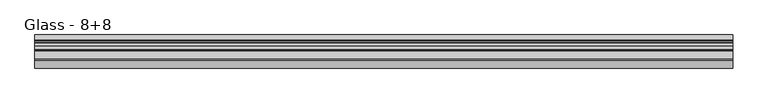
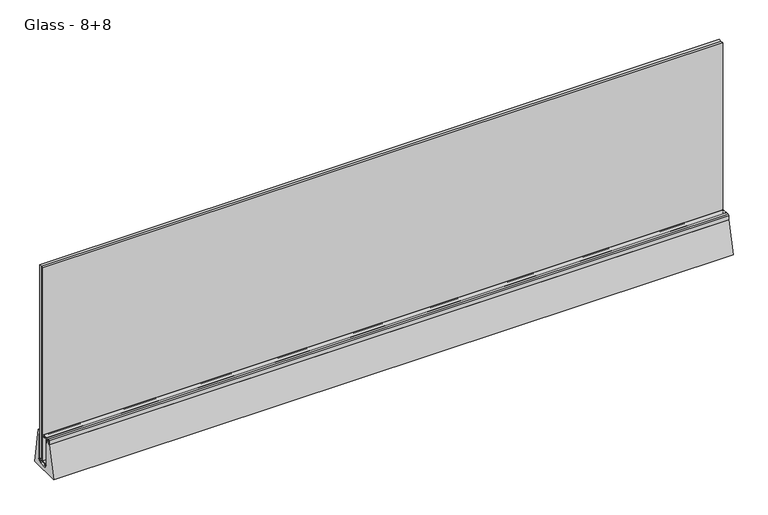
"""IFC4 building model written with IfcOpenShell, lengths in millimetres: proxy geometry, Construction_Slope-Glazing_Faraone_Linea-3-Mini : Glass - 8+8."""

from ifc_helpers import new_model, si_unit, point, frame, frame_2d, origin, place, context, project, spatial, polyline, circle_curve, trimmed, segment, composite_curve, outline, extrude, source, transform, mapped, element, save


def glass_8_8_5efa4668(model_context):
    return source(origin(), model_context, "Body", "SweptSolid", [
        extrude(outline(polyline([(1000.0, 23.8514845), (1000.0, 15.9014845), (-1000.0, 15.9014845), (-1000.0, 23.8514845), (1000.0, 23.8514845)])), frame((0.0, 0.0, 26.5097848), z_axis=(0.0, 0.0, 1.0), x_axis=(1.0, 0.0, 0.0)), (0.0, 0.0, 1.0), 600.0),
        extrude(outline(polyline([(1000.0, 14.3014845), (1000.0, 6.3514845), (-1000.0, 6.3514845), (-1000.0, 14.3014845), (1000.0, 14.3014845)])), frame((0.0, 0.0, 26.5097848), z_axis=(0.0, 0.0, 1.0), x_axis=(1.0, 0.0, 0.0)), (0.0, 0.0, 1.0), 600.0),
        extrude(outline(polyline([(21.0027951, 21.0097848), (22.0027951, 21.0097848), (21.0027951, 17.5097848), (18.5027951, 17.5097848), (18.5027951, 23.5097848), (-3.4544609, 23.5097848), (-3.4544609, 17.5097848), (-5.9544609, 17.5097848), (-6.9542334, 21.0097848), (-5.9544609, 21.0097848), (-5.9544609, 23.5100571), (-8.9999952, 23.5100571), (-8.9999952, 26.5097848), (23.8514845, 26.5097848), (23.8514845, 98.7598945), (26.4955126, 98.7598945), (26.4955126, 23.5097848), (21.0027951, 23.5097848), (21.0027951, 21.0097848)])), frame((-1000.0, 0.0, 0.0), z_axis=(1.0, 0.0, 0.0), x_axis=(0.0, 1.0, 0.0)), (0.0, 0.0, 1.0), 2000.0),
        extrude(outline(composite_curve([segment(trimmed(circle_curve(frame_2d((2.3741707, 109.8933639)), 0.5), [point((2.3741707, 110.3933639))], [point((2.8741707, 109.8933639))], False, "CARTESIAN"), True, "CONTINUOUS"), segment(polyline([(2.8741707, 109.8933639), (2.8741707, 107.7847909), (2.080513, 107.7847909), (2.080513, 109.0323883), (1.1824202, 109.0323883)]), True, "CONTINUOUS"), segment(trimmed(circle_curve(frame_2d((1.1824202, 108.5241255)), 0.5082627), [point((1.1824202, 109.0323883))], [point((0.6741575, 108.5241255))], True, "CARTESIAN"), True, "CONTINUOUS"), segment(polyline([(0.6741575, 108.5241255), (0.6741575, 104.040651)]), True, "CONTINUOUS"), segment(trimmed(circle_curve(frame_2d((1.1824202, 104.040651)), 0.5082627), [point((0.6741575, 104.040651))], [point((1.1824202, 103.5323883))], True, "CARTESIAN"), True, "CONTINUOUS"), segment(polyline([(1.1824202, 103.5323883), (2.080513, 103.5323883), (2.080513, 104.7799856), (2.8741707, 104.7799856), (2.8741707, 102.8323883)]), True, "CONTINUOUS"), segment(trimmed(circle_curve(frame_2d((2.3741707, 102.8323883)), 0.5), [point((2.8741707, 102.8323883))], [point((2.3741707, 102.3323883))], False, "CARTESIAN"), True, "CONTINUOUS"), segment(polyline([(2.3741707, 102.3323883), (-0.0258423, 102.3323883)]), True, "CONTINUOUS"), segment(trimmed(circle_curve(frame_2d((-0.0258423, 102.8323885)), 0.5000003), [point((-0.0258423, 102.3323883))], [point((-0.5258425, 102.8323885))], False, "CARTESIAN"), True, "CONTINUOUS"), segment(polyline([(-0.5258425, 102.8323885), (-0.5258425, 108.3933644)]), True, "CONTINUOUS"), segment(trimmed(circle_curve(frame_2d((-1.0258425, 108.3933644)), 0.5), [point((-0.5258425, 108.3933644))], [point((-1.0258425, 108.8933644))], True, "CARTESIAN"), True, "CONTINUOUS"), segment(polyline([(-1.0258425, 108.8933644), (-11.5017337, 108.8933644), (-11.5017337, 95.1380316), (-13.5888351, 95.1380316), (-13.5888351, 100.1818111), (-12.7017337, 100.1818111), (-12.7017337, 108.0933644)]), True, "CONTINUOUS"), segment(trimmed(circle_curve(frame_2d((-12.7017337, 108.4933644)), 0.4), [point((-12.7017337, 108.0933644))], [point((-12.7017337, 108.8933644))], True, "CARTESIAN"), True, "CONTINUOUS"), segment(polyline([(-12.7017337, 108.8933644), (-22.0267873, 108.8933644)]), True, "CONTINUOUS"), segment(trimmed(circle_curve(frame_2d((-22.0267873, 107.3933642)), 1.5000003), [point((-22.0267873, 108.8933644))], [point((-23.5267875, 107.3933642))], True, "CARTESIAN"), True, "CONTINUOUS"), segment(polyline([(-23.5267875, 107.3933642), (-23.5267875, 100.1818111), (-22.6462885, 100.1818111), (-22.6462885, 95.1374302), (-24.7267875, 95.1382255), (-24.7267875, 107.3933639)]), True, "CONTINUOUS"), segment(trimmed(circle_curve(frame_2d((-21.7267875, 107.3933639)), 3.0), [point((-24.7267875, 107.3933639))], [point((-21.7267875, 110.3933639))], False, "CARTESIAN"), True, "CONTINUOUS"), segment(polyline([(-21.7267875, 110.3933639), (2.3741707, 110.3933639)]), True, "CONTINUOUS")], self_intersect=False)), frame((-1000.0, 0.0, 0.0), z_axis=(1.0, 0.0, 0.0), x_axis=(0.0, 1.0, 0.0)), (0.0, 0.0, 1.0), 2000.0),
        extrude(outline(composite_curve([segment(polyline([(-47.4987038, 0.0), (-24.7300487, 95.1378278), (-22.4744479, 95.1378278), (-22.4744479, 103.0050058), (-13.7606757, 103.0050058), (-13.7606757, 95.1380316), (-11.4999492, 95.1380316), (-11.4999492, 23.5100853), (-6.5000411, 23.5100853), (-6.5000411, 21.5106384), (-11.5002842, 21.5106384), (-6.3392177, 10.5100582), (21.4008273, 10.5098183), (26.8963028, 21.5099451), (21.4999589, 21.5099451), (21.4999589, 23.5097848), (26.4996909, 23.5097848), (26.4947523, 109.9810078), (30.5938434, 109.9810078)]), True, "CONTINUOUS"), segment(trimmed(circle_curve(frame_2d((30.5938434, 109.0417285)), 0.9392792), [point((30.5938434, 109.9810078))], [point((31.5233799, 109.1766636))], False, "CARTESIAN"), True, "CONTINUOUS"), segment(polyline([(31.5233799, 109.1766636), (47.3718822, 0.0), (-47.4987038, 0.0)]), True, "CONTINUOUS")], self_intersect=False)), frame((-1000.0, 0.0, 0.0), z_axis=(1.0, 0.0, 0.0), x_axis=(0.0, 1.0, 0.0)), (0.0, 0.0, 1.0), 2000.0),
    ])


if __name__ == "__main__":
    model = new_model("IFC4")
    model_context = context("Model", 3, world=origin())
    ifc_project = project(units=[si_unit("LENGTHUNIT", "METRE", prefix="MILLI")], contexts=[model_context])
    site = spatial("IfcSite", under=ifc_project)
    building = spatial("IfcBuilding", under=site)
    placement = place(None, origin())
    glass_8_8_shape = glass_8_8_5efa4668(model_context)
    element("IfcBuildingElementProxy", 1, Name="Construction_Slope-Glazing_Faraone_Linea-3-Mini : Glass - 8+8", ObjectType="Construction_Slope-Glazing_Faraone_Linea-3-Mini : Glass - 8+8", at=placement, inside=building, context=model_context, shape_type="MappedRepresentation", body=[
        mapped(glass_8_8_shape, transform((0.0, 0.0, 0.0), x_axis=(1.0, 0.0, 0.0), y_axis=(0.0, 1.0, 0.0), z_axis=(0.0, 0.0, 1.0))),
    ])
    save(model, "model.ifc")
